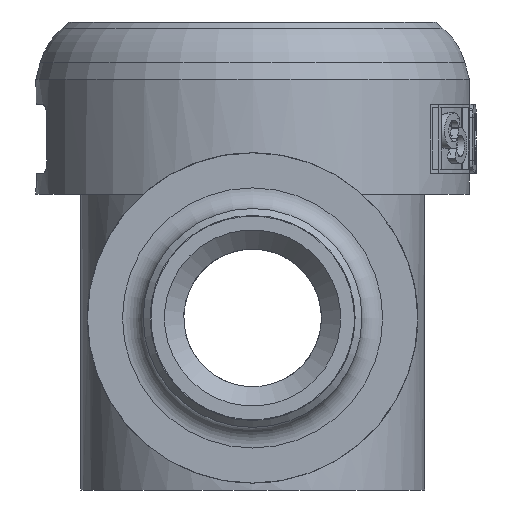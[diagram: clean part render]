
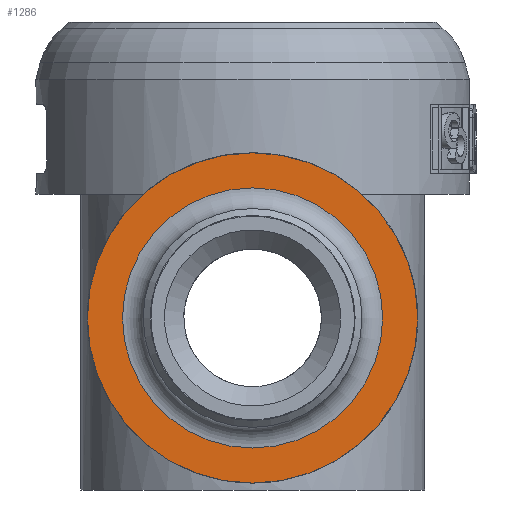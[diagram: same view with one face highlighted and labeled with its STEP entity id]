
A CAD part, front view. The second image highlights one B-rep face of the part: STEP entity #1286.
In plain terms, the highlighted planar face has unit normal (0, -1, 0).
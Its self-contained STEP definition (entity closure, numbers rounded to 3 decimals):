
#1286=ADVANCED_FACE('',(#1788,#1669),#1476,.F.);
#1476=PLANE('',#4994);
#1669=FACE_OUTER_BOUND('',#2070,.T.);
#1788=FACE_BOUND('',#2069,.T.);
#2069=EDGE_LOOP('',(#3109));
#2070=EDGE_LOOP('',(#3110));
#3109=ORIENTED_EDGE('',*,*,#4434,.T.);
#3110=ORIENTED_EDGE('',*,*,#4011,.T.);
#3562=VERTEX_POINT('',#6427);
#3848=VERTEX_POINT('',#9348);
#4011=EDGE_CURVE('',#3562,#3562,#4637,.T.);
#4434=EDGE_CURVE('',#3848,#3848,#4699,.T.);
#4637=CIRCLE('',#4811,12.);
#4699=CIRCLE('',#4993,9.45);
#4811=AXIS2_PLACEMENT_3D('',#6426,#5260,#5261);
#4993=AXIS2_PLACEMENT_3D('',#9347,#5878,#5879);
#4994=AXIS2_PLACEMENT_3D('',#9349,#5880,#5881);
#5260=DIRECTION('',(0.,-1.,0.));
#5261=DIRECTION('',(0.,0.,1.));
#5878=DIRECTION('',(0.,1.,0.));
#5879=DIRECTION('',(0.,0.,1.));
#5880=DIRECTION('',(0.,1.,0.));
#5881=DIRECTION('',(0.,0.,-1.));
#6426=CARTESIAN_POINT('',(0.,-16.5,-11.));
#6427=CARTESIAN_POINT('',(0.,-16.5,1.));
#9347=CARTESIAN_POINT('',(0.,-16.5,-11.));
#9348=CARTESIAN_POINT('',(0.,-16.5,-1.55));
#9349=CARTESIAN_POINT('',(0.,-16.5,-11.));
